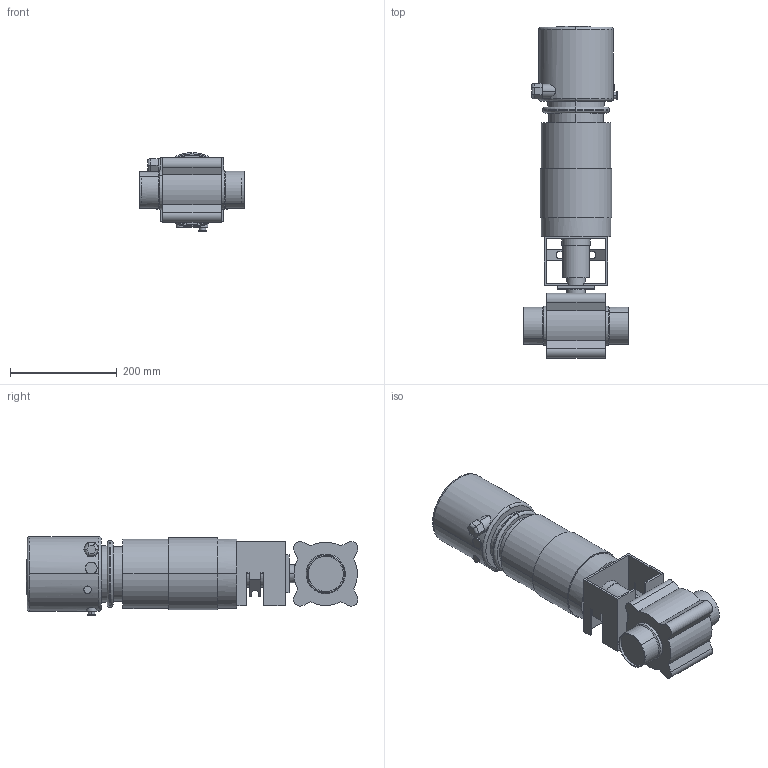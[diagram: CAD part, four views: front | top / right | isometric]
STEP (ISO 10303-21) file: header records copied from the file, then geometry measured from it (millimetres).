
FILE_DESCRIPTION(('Creo Elements/Direct Modeling STEP Export'),'2;1');
FILE_NAME('BLV1-65-NC-12S-CU4.stp','2019-05-09T14:26:44',(''),(''),'Creo Elements/Direct Modeling STEP processor for AP214 (Solid Model)','Creo Elements/Direct Modeling 19.0F 14-Feb-2017 (C) Parametric Technology GmbH','');
FILE_SCHEMA(('AUTOMOTIVE_DESIGN { 1 0 10303 214 1 1 1 1 }'));
Length unit declared in the file: millimetre
Products named in the file (2): BLV1-65-NC-12S-CU4
Assembly tree (1 placements, depth 2):
  BLV1-65-NC-12S-CU4
    BLV1-65-NC-12S-CU4
Bounding box: 197 x 622.84 x 148 mm (x, y, z)
Volume: 7604681.7 mm3; surface area: 402870.7 mm2
Topology: 1 solids, 2 shells, 257 faces, 663 edges, 434 vertices
Faces by surface type: plane 116, cylinder 94, extrusion 33, torus 10, cone 4
Entity records: 10971 total; most frequent: CARTESIAN_POINT 5166, ORIENTED_EDGE 1328, DIRECTION 1004, EDGE_CURVE 664, VERTEX_POINT 434, VECTOR 348, AXIS2_PLACEMENT_3D 328, LINE 315
